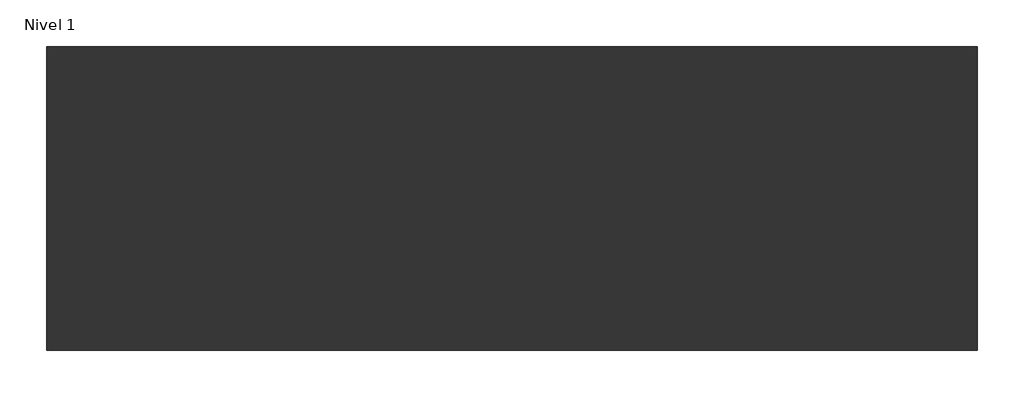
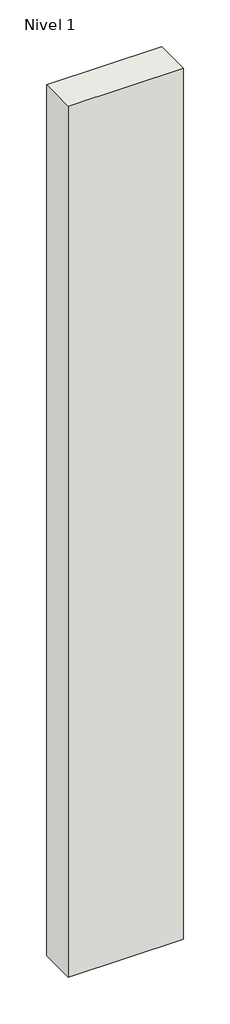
# One storey: 1 wall.
"""IFC4 building model written with IfcOpenShell, lengths in millimetres."""

from ifc_helpers import new_model, si_unit, origin, origin_with_axes, place, context, project, spatial, polyline, outline, extrude, element, save

model = new_model("IFC4")

# Units and contexts
model_context = context("Model", 3, world=origin())
ifc_project = project(units=[si_unit("LENGTHUNIT", "METRE", prefix="MILLI")], contexts=[model_context])

# Site, building, storey
site = spatial("IfcSite", under=ifc_project)
building = spatial("IfcBuilding", under=site)
storey = spatial("IfcBuildingStorey", under=building, Name="Nivel 1", Elevation=0.0)

# Wall
placement = place(None, origin())
element("IfcWall", 1, ObjectType="LC 1/2 pie + plancha poliuretano + cámara aire no ventilada + yeso", at=placement, inside=storey, context=model_context, shape_type="SweptSolid", body=[
    extrude(outline(polyline([(-3167.1347582, 3493.9505819), (-4167.1347582, 3493.9505819), (-4167.1347582, 3819.9505819), (-3167.1347582, 3819.9505819), (-3167.1347582, 3493.9505819)])), origin_with_axes(), (0.0, 0.0, 1.0), 8000.0),
])

save(model, "model.ifc")
